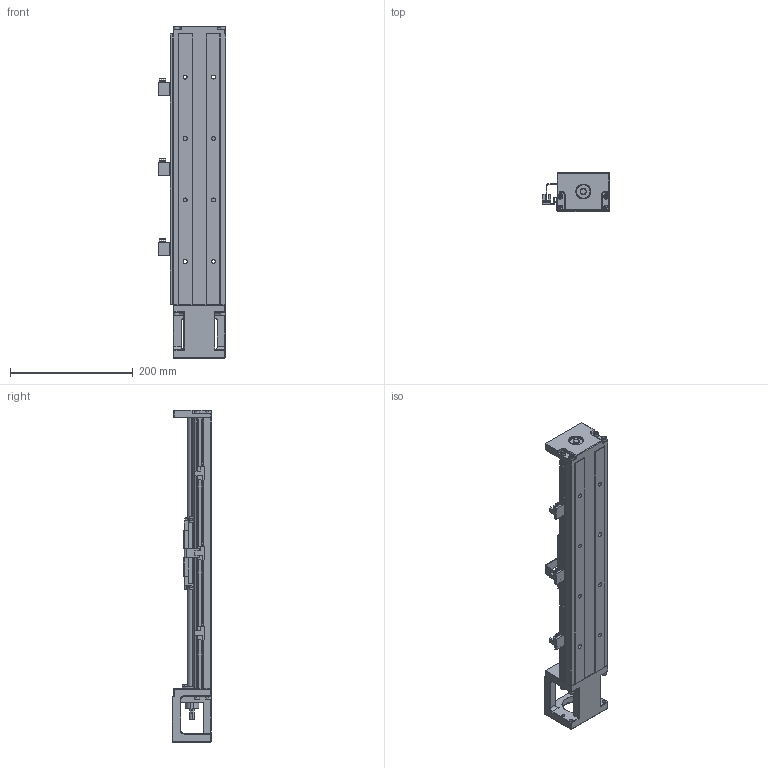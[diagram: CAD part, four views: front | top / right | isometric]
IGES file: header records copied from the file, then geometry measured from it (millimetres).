
Start section: SolidWorks IGES file using analytic representation for surfaces
Bounding box: 109.8 x 64 x 540 mm (x, y, z)
Surface area: 270735.2 mm2 (no closed solid volume)
Topology: 0 solids, 0 shells, 1378 faces, 15926 edges, 15810 vertices
Faces by surface type: bspline 791, revolution 587
